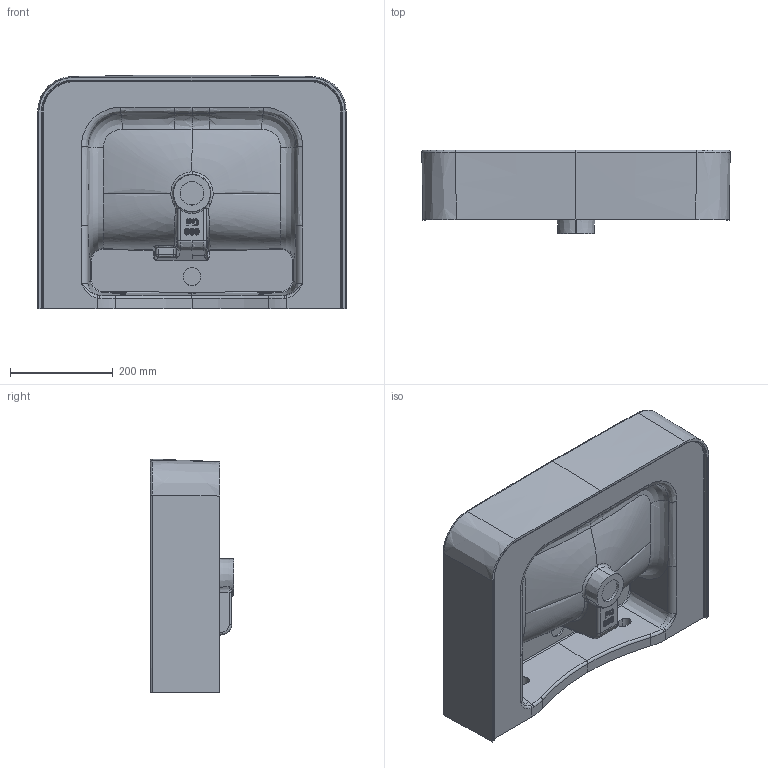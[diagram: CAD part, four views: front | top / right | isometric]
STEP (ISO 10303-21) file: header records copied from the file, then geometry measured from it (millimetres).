
FILE_DESCRIPTION (( 'STEP AP203' ), '1' );
FILE_NAME ('pride.STEP', '2023-02-24T06:00:29', ( '' ), ( '' ), 'SwSTEP 2.0', 'SolidWorks 2021', '' );
FILE_SCHEMA (( 'CONFIG_CONTROL_DESIGN' ));
Products named in the file (1): pride
Bounding box: 601.16 x 162.34 x 455.81 mm (x, y, z)
Volume: 14675388.5 mm3; surface area: 992794.1 mm2
Topology: 1 solids, 1 shells, 508 faces, 1217 edges, 704 vertices
Faces by surface type: bspline 337, cylinder 82, plane 55, sphere 16, cone 14, torus 4
Entity records: 114000 total; most frequent: CARTESIAN_POINT 105081, ORIENTED_EDGE 2394, EDGE_CURVE 1197, DIRECTION 978, B_SPLINE_CURVE_WITH_KNOTS 763, VERTEX_POINT 704, EDGE_LOOP 525, FACE_OUTER_BOUND 508
